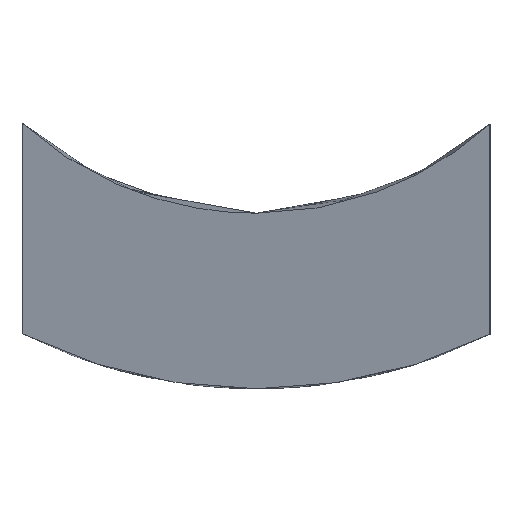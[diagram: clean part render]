
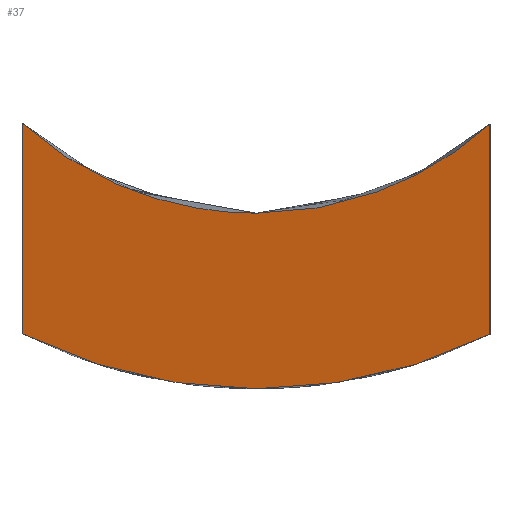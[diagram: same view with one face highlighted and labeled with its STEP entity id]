
A CAD part, left-side view. The second image highlights one B-rep face of the part: STEP entity #37.
In plain terms, the highlighted planar face has unit normal (-0.966, 0.259, 0).
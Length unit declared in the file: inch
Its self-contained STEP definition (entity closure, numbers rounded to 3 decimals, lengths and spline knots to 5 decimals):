
#37=ADVANCED_FACE('',(#79),#80,.F.);
#79=FACE_OUTER_BOUND('',#123,.T.);
#80=PLANE('',#124);
#123=EDGE_LOOP('',(#217,#218,#219,#220,#221,#222));
#124=AXIS2_PLACEMENT_3D('',#223,#224,#225);
#217=ORIENTED_EDGE('',*,*,#314,.F.);
#218=ORIENTED_EDGE('',*,*,#315,.F.);
#219=ORIENTED_EDGE('',*,*,#316,.F.);
#220=ORIENTED_EDGE('',*,*,#317,.F.);
#221=ORIENTED_EDGE('',*,*,#318,.T.);
#222=ORIENTED_EDGE('',*,*,#319,.F.);
#223=CARTESIAN_POINT('',(0.10866,0.29167,0.0));
#224=DIRECTION('',(0.966,-0.259,0.0));
#225=DIRECTION('',(-0.259,-0.966,0.0));
#314=EDGE_CURVE('',#363,#364,#365,.T.);
#315=EDGE_CURVE('',#366,#363,#367,.T.);
#316=EDGE_CURVE('',#368,#366,#369,.T.);
#317=EDGE_CURVE('',#370,#368,#371,.T.);
#318=EDGE_CURVE('',#370,#372,#373,.T.);
#319=EDGE_CURVE('',#364,#372,#374,.T.);
#363=VERTEX_POINT('',#436);
#364=VERTEX_POINT('',#437);
#365=B_SPLINE_CURVE_WITH_KNOTS('',3,(#438,#439,#440,#441,#442,#443),.UNSPECIFIED.,.F.,.F.,(4,2,4),(-0.2841,-0.14482,-0.0),.UNSPECIFIED.);
#366=VERTEX_POINT('',#444);
#367=LINE('',#445,#446);
#368=VERTEX_POINT('',#447);
#369=B_SPLINE_CURVE_WITH_KNOTS('',3,(#448,#449,#450,#451,#452,#453),.UNSPECIFIED.,.F.,.F.,(4,2,4),(-0.26851,-0.1316,-0.0),.UNSPECIFIED.);
#370=VERTEX_POINT('',#454);
#371=B_SPLINE_CURVE_WITH_KNOTS('',3,(#455,#456,#457,#458,#459,#460),.UNSPECIFIED.,.F.,.F.,(4,2,4),(-0.26741,-0.13614,-0.0),.UNSPECIFIED.);
#372=VERTEX_POINT('',#461);
#373=LINE('',#462,#463);
#374=B_SPLINE_CURVE_WITH_KNOTS('',3,(#464,#465,#466,#467,#468,#469),.UNSPECIFIED.,.F.,.F.,(4,2,4),(-0.28172,-0.13795,-0.0),.UNSPECIFIED.);
#436=CARTESIAN_POINT('',(0.17565,0.54167,0.0));
#437=CARTESIAN_POINT('',(0.1085,0.29109,-0.0961));
#438=CARTESIAN_POINT('',(0.17565,0.54167,0.));
#439=CARTESIAN_POINT('',(0.1666,0.50791,-0.03036));
#440=CARTESIAN_POINT('',(0.15621,0.46914,-0.05424));
#441=CARTESIAN_POINT('',(0.13332,0.38371,-0.08759));
#442=CARTESIAN_POINT('',(0.121,0.33772,-0.0961));
#443=CARTESIAN_POINT('',(0.1085,0.29109,-0.0961));
#444=CARTESIAN_POINT('',(0.17565,0.54167,-0.22489));
#445=CARTESIAN_POINT('',(0.17565,0.54167,-0.05622));
#446=VECTOR('',#668,1.0);
#447=CARTESIAN_POINT('',(0.1085,0.29109,-0.2836));
#448=CARTESIAN_POINT('',(0.1085,0.29109,-0.2836));
#449=CARTESIAN_POINT('',(0.12032,0.33521,-0.2836));
#450=CARTESIAN_POINT('',(0.13208,0.3791,-0.27852));
#451=CARTESIAN_POINT('',(0.15467,0.46338,-0.25844));
#452=CARTESIAN_POINT('',(0.16542,0.50349,-0.24391));
#453=CARTESIAN_POINT('',(0.17565,0.54167,-0.22489));
#454=CARTESIAN_POINT('',(0.04167,0.04167,-0.22547));
#455=CARTESIAN_POINT('',(0.04167,0.04167,-0.22547));
#456=CARTESIAN_POINT('',(0.05187,0.07976,-0.24434));
#457=CARTESIAN_POINT('',(0.06259,0.11976,-0.25874));
#458=CARTESIAN_POINT('',(0.08507,0.20365,-0.27859));
#459=CARTESIAN_POINT('',(0.09676,0.24726,-0.2836));
#460=CARTESIAN_POINT('',(0.1085,0.29109,-0.2836));
#461=CARTESIAN_POINT('',(0.04167,0.04167,-0.00103));
#462=CARTESIAN_POINT('',(0.04167,0.04167,-0.07276));
#463=VECTOR('',#669,1.0);
#464=CARTESIAN_POINT('',(0.1085,0.29109,-0.0961));
#465=CARTESIAN_POINT('',(0.09606,0.24467,-0.0961));
#466=CARTESIAN_POINT('',(0.08379,0.19888,-0.08767));
#467=CARTESIAN_POINT('',(0.06101,0.11387,-0.05465));
#468=CARTESIAN_POINT('',(0.05068,0.07531,-0.03104));
#469=CARTESIAN_POINT('',(0.04167,0.04167,-0.00102));
#668=DIRECTION('',(-0.0,-0.0,1.0));
#669=DIRECTION('',(0.,-0.0,1.0));
